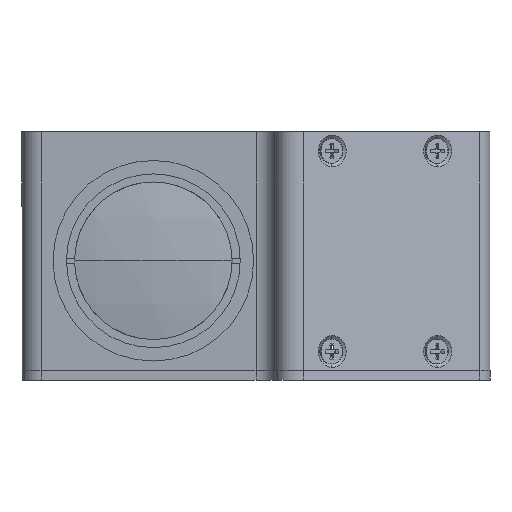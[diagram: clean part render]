
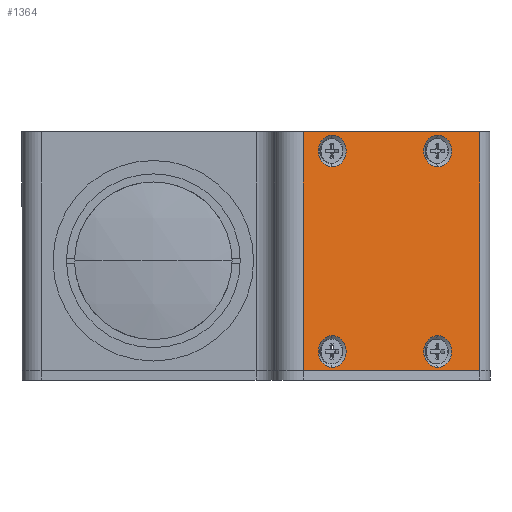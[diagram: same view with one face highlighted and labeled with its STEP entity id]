
A CAD part, left-side view. The second image highlights one B-rep face of the part: STEP entity #1364.
In plain terms, the highlighted planar face has unit normal (-0.883, -0.469, 0).
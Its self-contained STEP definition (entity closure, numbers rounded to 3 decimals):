
#142 = CARTESIAN_POINT ( 'NONE',  ( 64.341, -68.378, -23. ) ) ;
#207 = EDGE_CURVE ( 'NONE', #14468, #12582, #7270, .T. ) ;
#246 = EDGE_CURVE ( 'NONE', #7334, #12582, #12943, .T. ) ;
#367 = EDGE_CURVE ( 'NONE', #14468, #10925, #5050, .T. ) ;
#441 = CIRCLE ( 'NONE', #13935, 3.3 ) ;
#511 = DIRECTION ( 'NONE',  ( -0.883, -0.469, 0. ) ) ;
#512 = CARTESIAN_POINT ( 'NONE',  ( 59.646, -59.548, 23. ) ) ;
#563 = EDGE_CURVE ( 'NONE', #7914, #4164, #14638, .T. ) ;
#650 = EDGE_CURVE ( 'NONE', #11059, #10389, #3754, .T. ) ;
#741 = EDGE_CURVE ( 'NONE', #10124, #10149, #2304, .T. ) ;
#768 = DIRECTION ( 'NONE',  ( 0., 0., 1. ) ) ;
#808 = EDGE_CURVE ( 'NONE', #9613, #10024, #4661, .T. ) ;
#973 = CARTESIAN_POINT ( 'NONE',  ( 64.341, -68.378, 27. ) ) ;
#1351 = CARTESIAN_POINT ( 'NONE',  ( 47.909, -37.475, 26.3 ) ) ;
#1364 = ADVANCED_FACE ( 'NONE', ( #9171, #12393, #14945, #12038, #8784 ), #4882, .T. ) ;
#1516 = CARTESIAN_POINT ( 'NONE',  ( 47.909, -37.475, 23. ) ) ;
#1711 = DIRECTION ( 'NONE',  ( 0., 0., 1. ) ) ;
#1826 = EDGE_LOOP ( 'NONE', ( #7320, #7640 ) ) ;
#1933 = VECTOR ( 'NONE', #10703, 1000. ) ;
#2095 = DIRECTION ( 'NONE',  ( 0., 0., 1. ) ) ;
#2123 = DIRECTION ( 'NONE',  ( -0.883, -0.469, 0. ) ) ;
#2290 = CIRCLE ( 'NONE', #15121, 3.3 ) ;
#2304 = CIRCLE ( 'NONE', #8497, 3.3 ) ;
#2343 = CARTESIAN_POINT ( 'NONE',  ( 67.582, -74.473, -23. ) ) ;
#2446 = EDGE_LOOP ( 'NONE', ( #6868, #7109 ) ) ;
#2596 = DIRECTION ( 'NONE',  ( -0.883, -0.469, 0. ) ) ;
#2686 = DIRECTION ( 'NONE',  ( -0.883, -0.469, 0. ) ) ;
#2688 = DIRECTION ( 'NONE',  ( 0., 0., 1. ) ) ;
#2689 = CARTESIAN_POINT ( 'NONE',  ( 44.651, -31.348, -23. ) ) ;
#2829 = VECTOR ( 'NONE', #6117, 1000. ) ;
#2935 = CARTESIAN_POINT ( 'NONE',  ( 47.909, -37.475, -15.7 ) ) ;
#3046 = CIRCLE ( 'NONE', #5886, 3.3 ) ;
#3053 = AXIS2_PLACEMENT_3D ( 'NONE', #12508, #5269, #13599 ) ;
#3289 = CARTESIAN_POINT ( 'NONE',  ( 47.909, -37.475, 23. ) ) ;
#3307 = DIRECTION ( 'NONE',  ( 0.469, -0.883, 0. ) ) ;
#3542 = CARTESIAN_POINT ( 'NONE',  ( 59.646, -59.548, 19.7 ) ) ;
#3754 = CIRCLE ( 'NONE', #8679, 3.3 ) ;
#3920 = CARTESIAN_POINT ( 'NONE',  ( 47.909, -37.475, 19.7 ) ) ;
#3937 = CIRCLE ( 'NONE', #3053, 3.3 ) ;
#4164 = VERTEX_POINT ( 'NONE', #3920 ) ;
#4456 = DIRECTION ( 'NONE',  ( 0., 0., 1. ) ) ;
#4661 = CIRCLE ( 'NONE', #8383, 3.3 ) ;
#4882 = PLANE ( 'NONE',  #7698 ) ;
#5050 = LINE ( 'NONE', #2343, #1933 ) ;
#5130 = CARTESIAN_POINT ( 'NONE',  ( 59.646, -59.548, -15.7 ) ) ;
#5269 = DIRECTION ( 'NONE',  ( -0.883, -0.469, 0. ) ) ;
#5294 = EDGE_LOOP ( 'NONE', ( #8055, #8302, #8610, #8800 ) ) ;
#5576 = LINE ( 'NONE', #10992, #2829 ) ;
#5814 = ORIENTED_EDGE ( 'NONE', *, *, #808, .F. ) ;
#5886 = AXIS2_PLACEMENT_3D ( 'NONE', #512, #8824, #1711 ) ;
#6117 = DIRECTION ( 'NONE',  ( 0., 0., -1. ) ) ;
#6169 = ORIENTED_EDGE ( 'NONE', *, *, #10999, .F. ) ;
#6385 = ORIENTED_EDGE ( 'NONE', *, *, #741, .F. ) ;
#6568 = ORIENTED_EDGE ( 'NONE', *, *, #11524, .F. ) ;
#6868 = ORIENTED_EDGE ( 'NONE', *, *, #650, .F. ) ;
#7109 = ORIENTED_EDGE ( 'NONE', *, *, #12061, .F. ) ;
#7270 = LINE ( 'NONE', #7958, #13285 ) ;
#7320 = ORIENTED_EDGE ( 'NONE', *, *, #563, .F. ) ;
#7334 = VERTEX_POINT ( 'NONE', #8306 ) ;
#7569 = CARTESIAN_POINT ( 'NONE',  ( 47.909, -37.475, -19. ) ) ;
#7640 = ORIENTED_EDGE ( 'NONE', *, *, #12510, .F. ) ;
#7698 = AXIS2_PLACEMENT_3D ( 'NONE', #9740, #2596, #10955 ) ;
#7832 = DIRECTION ( 'NONE',  ( -0.883, -0.469, 0. ) ) ;
#7914 = VERTEX_POINT ( 'NONE', #1351 ) ;
#7958 = CARTESIAN_POINT ( 'NONE',  ( 64.341, -68.378, 2. ) ) ;
#8014 = CARTESIAN_POINT ( 'NONE',  ( 67.582, -74.473, 27. ) ) ;
#8055 = ORIENTED_EDGE ( 'NONE', *, *, #367, .F. ) ;
#8302 = ORIENTED_EDGE ( 'NONE', *, *, #207, .T. ) ;
#8306 = CARTESIAN_POINT ( 'NONE',  ( 44.651, -31.348, 27. ) ) ;
#8383 = AXIS2_PLACEMENT_3D ( 'NONE', #9250, #2123, #10475 ) ;
#8497 = AXIS2_PLACEMENT_3D ( 'NONE', #14844, #7832, #768 ) ;
#8610 = ORIENTED_EDGE ( 'NONE', *, *, #246, .F. ) ;
#8679 = AXIS2_PLACEMENT_3D ( 'NONE', #7569, #511, #8823 ) ;
#8784 = FACE_OUTER_BOUND ( 'NONE', #5294, .T. ) ;
#8799 = AXIS2_PLACEMENT_3D ( 'NONE', #1516, #9844, #2688 ) ;
#8800 = ORIENTED_EDGE ( 'NONE', *, *, #12874, .T. ) ;
#8823 = DIRECTION ( 'NONE',  ( 0., 0., 1. ) ) ;
#8824 = DIRECTION ( 'NONE',  ( -0.883, -0.469, 0. ) ) ;
#9171 = FACE_BOUND ( 'NONE', #12355, .T. ) ;
#9250 = CARTESIAN_POINT ( 'NONE',  ( 59.646, -59.548, 23. ) ) ;
#9613 = VERTEX_POINT ( 'NONE', #12197 ) ;
#9740 = CARTESIAN_POINT ( 'NONE',  ( 54.554, -49.971, 2. ) ) ;
#9774 = VECTOR ( 'NONE', #3307, 1000. ) ;
#9843 = CARTESIAN_POINT ( 'NONE',  ( 47.909, -37.475, -19. ) ) ;
#9844 = DIRECTION ( 'NONE',  ( -0.883, -0.469, 0. ) ) ;
#10024 = VERTEX_POINT ( 'NONE', #3542 ) ;
#10124 = VERTEX_POINT ( 'NONE', #5130 ) ;
#10149 = VERTEX_POINT ( 'NONE', #14620 ) ;
#10389 = VERTEX_POINT ( 'NONE', #12986 ) ;
#10475 = DIRECTION ( 'NONE',  ( 0., 0., 1. ) ) ;
#10703 = DIRECTION ( 'NONE',  ( -0.469, 0.883, 0. ) ) ;
#10925 = VERTEX_POINT ( 'NONE', #2689 ) ;
#10955 = DIRECTION ( 'NONE',  ( 0., 0., 1. ) ) ;
#10992 = CARTESIAN_POINT ( 'NONE',  ( 44.651, -31.348, 2. ) ) ;
#10999 = EDGE_CURVE ( 'NONE', #10024, #9613, #3046, .T. ) ;
#11059 = VERTEX_POINT ( 'NONE', #2935 ) ;
#11073 = DIRECTION ( 'NONE',  ( 0., 0., 1. ) ) ;
#11524 = EDGE_CURVE ( 'NONE', #10149, #10124, #3937, .T. ) ;
#11708 = DIRECTION ( 'NONE',  ( -0.883, -0.469, 0. ) ) ;
#12038 = FACE_BOUND ( 'NONE', #1826, .T. ) ;
#12061 = EDGE_CURVE ( 'NONE', #10389, #11059, #441, .T. ) ;
#12197 = CARTESIAN_POINT ( 'NONE',  ( 59.646, -59.548, 26.3 ) ) ;
#12355 = EDGE_LOOP ( 'NONE', ( #5814, #6169 ) ) ;
#12393 = FACE_BOUND ( 'NONE', #13639, .T. ) ;
#12508 = CARTESIAN_POINT ( 'NONE',  ( 59.646, -59.548, -19. ) ) ;
#12510 = EDGE_CURVE ( 'NONE', #4164, #7914, #2290, .T. ) ;
#12582 = VERTEX_POINT ( 'NONE', #973 ) ;
#12874 = EDGE_CURVE ( 'NONE', #7334, #10925, #5576, .T. ) ;
#12943 = LINE ( 'NONE', #8014, #9774 ) ;
#12986 = CARTESIAN_POINT ( 'NONE',  ( 47.909, -37.475, -22.3 ) ) ;
#13285 = VECTOR ( 'NONE', #2095, 1000. ) ;
#13599 = DIRECTION ( 'NONE',  ( 0., 0., 1. ) ) ;
#13639 = EDGE_LOOP ( 'NONE', ( #6385, #6568 ) ) ;
#13935 = AXIS2_PLACEMENT_3D ( 'NONE', #9843, #2686, #11073 ) ;
#14468 = VERTEX_POINT ( 'NONE', #142 ) ;
#14620 = CARTESIAN_POINT ( 'NONE',  ( 59.646, -59.548, -22.3 ) ) ;
#14638 = CIRCLE ( 'NONE', #8799, 3.3 ) ;
#14844 = CARTESIAN_POINT ( 'NONE',  ( 59.646, -59.548, -19. ) ) ;
#14945 = FACE_BOUND ( 'NONE', #2446, .T. ) ;
#15121 = AXIS2_PLACEMENT_3D ( 'NONE', #3289, #11708, #4456 ) ;
